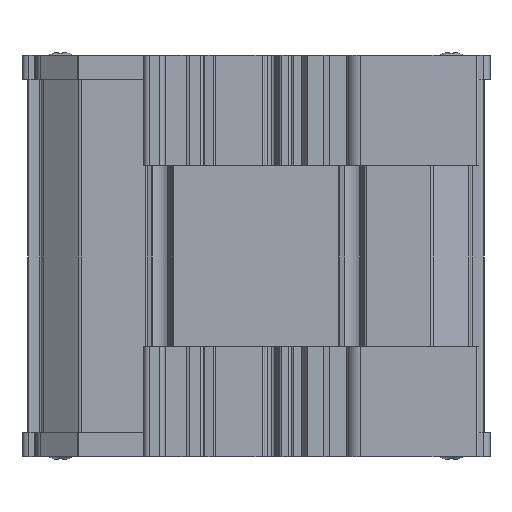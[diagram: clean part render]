
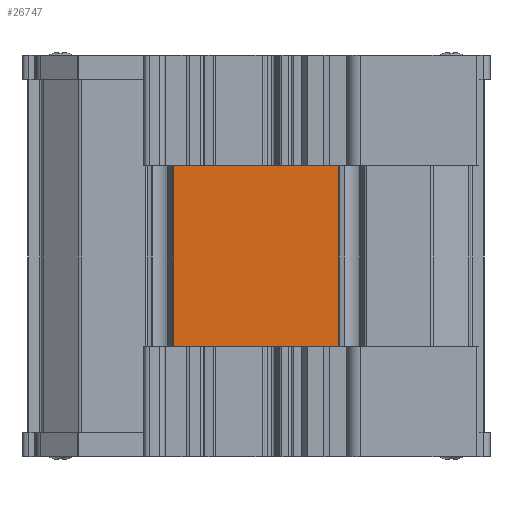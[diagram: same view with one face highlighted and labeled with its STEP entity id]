
A CAD part, left-side view. The second image highlights one B-rep face of the part: STEP entity #26747.
In plain terms, the highlighted planar face has unit normal (-1, 0, 0).
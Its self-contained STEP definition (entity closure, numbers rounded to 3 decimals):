
#26747=ADVANCED_FACE('',(#49941),#49943,.T.);
#49941=FACE_BOUND('',#49942,.T.);
#49942=EDGE_LOOP('',(#68539,#68540,#68541,#68542,#68543,#68544,#68545,#68546,#68547,
#68548,#68549,#68550));
#49943=PLANE('',#49944);
#49944=AXIS2_PLACEMENT_3D('',#49945,#49946,#49947);
#49945=CARTESIAN_POINT('',(0.,15.,0.));
#49946=DIRECTION('',(-1.,0.,0.));
#49947=DIRECTION('',(0.,-1.,0.));
#68539=ORIENTED_EDGE('',*,*,#77820,.F.);
#68540=ORIENTED_EDGE('',*,*,#77821,.F.);
#68541=ORIENTED_EDGE('',*,*,#77692,.F.);
#68542=ORIENTED_EDGE('',*,*,#77822,.F.);
#68543=ORIENTED_EDGE('',*,*,#77705,.F.);
#68544=ORIENTED_EDGE('',*,*,#77823,.F.);
#68545=ORIENTED_EDGE('',*,*,#77824,.F.);
#68546=ORIENTED_EDGE('',*,*,#77825,.F.);
#68547=ORIENTED_EDGE('',*,*,#77701,.F.);
#68548=ORIENTED_EDGE('',*,*,#77826,.T.);
#68549=ORIENTED_EDGE('',*,*,#77696,.F.);
#68550=ORIENTED_EDGE('',*,*,#77827,.F.);
#77692=EDGE_CURVE('',#91823,#91825,#91826,.T.);
#77696=EDGE_CURVE('',#91831,#91833,#91834,.T.);
#77701=EDGE_CURVE('',#91840,#91842,#91843,.T.);
#77705=EDGE_CURVE('',#91848,#91850,#91851,.T.);
#77820=EDGE_CURVE('',#92019,#92020,#92021,.T.);
#77821=EDGE_CURVE('',#91825,#92019,#92022,.F.);
#77822=EDGE_CURVE('',#91850,#91823,#92023,.T.);
#77823=EDGE_CURVE('',#92024,#91848,#92025,.F.);
#77824=EDGE_CURVE('',#92026,#92024,#92027,.T.);
#77825=EDGE_CURVE('',#91842,#92026,#92028,.F.);
#77826=EDGE_CURVE('',#91840,#91833,#92029,.T.);
#77827=EDGE_CURVE('',#92020,#91831,#92030,.F.);
#91823=VERTEX_POINT('',#123989);
#91825=VERTEX_POINT('',#123993);
#91826=LINE('',#123994,#123995);
#91831=VERTEX_POINT('',#124005);
#91833=VERTEX_POINT('',#124009);
#91834=LINE('',#124010,#124011);
#91840=VERTEX_POINT('',#124024);
#91842=VERTEX_POINT('',#124028);
#91843=LINE('',#124029,#124030);
#91848=VERTEX_POINT('',#124040);
#91850=VERTEX_POINT('',#124044);
#91851=LINE('',#124045,#124046);
#92019=VERTEX_POINT('',#124453);
#92020=VERTEX_POINT('',#124454);
#92021=LINE('',#124455,#124456);
#92022=LINE('',#124458,#124459);
#92023=LINE('',#124461,#124462);
#92024=VERTEX_POINT('',#124464);
#92025=LINE('',#124465,#124466);
#92026=VERTEX_POINT('',#124468);
#92027=LINE('',#124469,#124470);
#92028=LINE('',#124472,#124473);
#92029=LINE('',#124475,#124476);
#92030=LINE('',#124478,#124479);
#123989=CARTESIAN_POINT('',(0.,15.,50.));
#123993=CARTESIAN_POINT('',(0.,-9.1,50.));
#123994=CARTESIAN_POINT('',(0.,15.,50.));
#123995=VECTOR('',#123996,1.);
#123996=DIRECTION('',(0.,-1.,0.));
#124005=CARTESIAN_POINT('',(0.,-12.6,50.));
#124009=CARTESIAN_POINT('',(0.,-15.,50.));
#124010=CARTESIAN_POINT('',(0.,-12.6,50.));
#124011=VECTOR('',#124012,1.);
#124012=DIRECTION('',(0.,-1.,0.));
#124024=CARTESIAN_POINT('',(0.,-15.,17.));
#124028=CARTESIAN_POINT('',(0.,-12.6,17.));
#124029=CARTESIAN_POINT('',(0.,-15.,17.));
#124030=VECTOR('',#124031,1.);
#124031=DIRECTION('',(0.,1.,0.));
#124040=CARTESIAN_POINT('',(0.,-9.1,17.));
#124044=CARTESIAN_POINT('',(0.,15.,17.));
#124045=CARTESIAN_POINT('',(0.,-9.1,17.));
#124046=VECTOR('',#124047,1.);
#124047=DIRECTION('',(0.,1.,0.));
#124453=CARTESIAN_POINT('',(0.,-9.1,67.));
#124454=CARTESIAN_POINT('',(0.,-12.6,67.));
#124455=CARTESIAN_POINT('',(0.,-9.1,67.));
#124456=VECTOR('',#124457,1.);
#124457=DIRECTION('',(0.,-1.,0.));
#124458=CARTESIAN_POINT('',(0.,-9.1,67.));
#124459=VECTOR('',#124460,1.);
#124460=DIRECTION('',(0.,0.,-1.));
#124461=CARTESIAN_POINT('',(0.,15.,17.));
#124462=VECTOR('',#124463,1.);
#124463=DIRECTION('',(0.,0.,1.));
#124464=CARTESIAN_POINT('',(0.,-9.1,0.));
#124465=CARTESIAN_POINT('',(0.,-9.1,17.));
#124466=VECTOR('',#124467,1.);
#124467=DIRECTION('',(0.,0.,-1.));
#124468=CARTESIAN_POINT('',(0.,-12.6,0.));
#124469=CARTESIAN_POINT('',(0.,-12.6,0.));
#124470=VECTOR('',#124471,1.);
#124471=DIRECTION('',(0.,1.,0.));
#124472=CARTESIAN_POINT('',(0.,-12.6,0.));
#124473=VECTOR('',#124474,1.);
#124474=DIRECTION('',(0.,0.,1.));
#124475=CARTESIAN_POINT('',(0.,-15.,17.));
#124476=VECTOR('',#124477,1.);
#124477=DIRECTION('',(0.,0.,1.));
#124478=CARTESIAN_POINT('',(0.,-12.6,50.));
#124479=VECTOR('',#124480,1.);
#124480=DIRECTION('',(0.,0.,1.));
